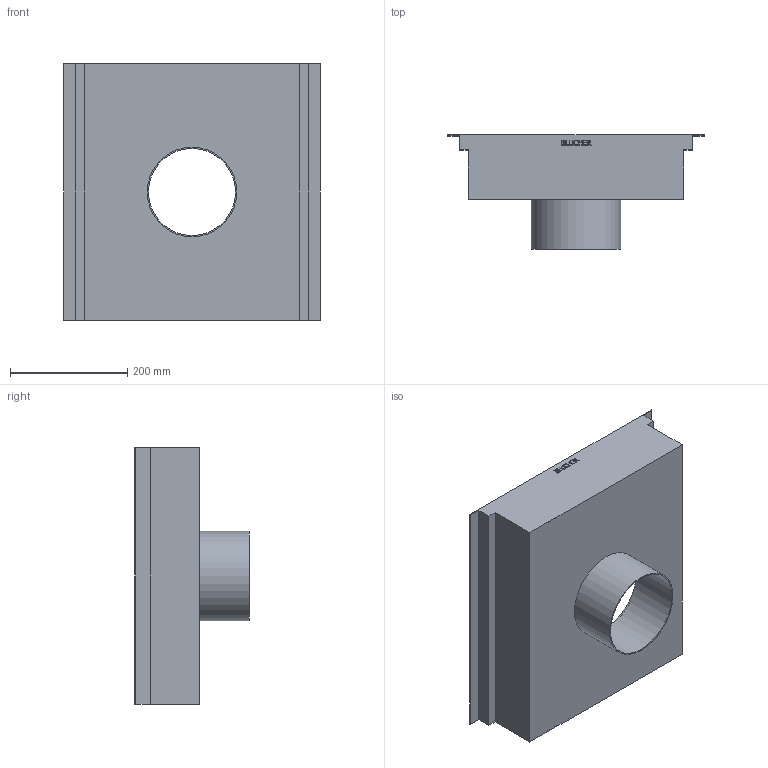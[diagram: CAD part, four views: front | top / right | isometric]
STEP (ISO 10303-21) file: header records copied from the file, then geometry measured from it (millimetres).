
FILE_DESCRIPTION((''),'2;1');
FILE_NAME('I:\WATTS\3D_CAD\3D_CAD_Models\Blucher_Drains\BKC_KitchenChannels\BKC-100\WebsiteFiles\3D\STEP\BKC-106-4.stp','2009-11-23T15:48:30',('menesek'),(''),'Autodesk Inventor 2010','Autodesk Inventor 2010','');
FILE_SCHEMA(('AUTOMOTIVE_DESIGN { 1 0 10303 214 1 1 1 1 }'));
Length unit declared in the file: inch
Products named in the file (1): BKC-106-4
Bounding box: 437 x 195 x 437 mm (x, y, z)
Volume: 776101.2 mm3; surface area: 780656.2 mm2
Topology: 1 solids, 1 shells, 142 faces, 384 edges, 256 vertices
Faces by surface type: plane 95, bspline 45, cylinder 2
Full cylindrical faces by diameter (mm): 148.4 x1, 152.4 x1
Entity records: 4799 total; most frequent: CARTESIAN_POINT 1501, ORIENTED_EDGE 764, DIRECTION 492, EDGE_CURVE 382, VECTOR 288, LINE 288, VERTEX_POINT 256, EDGE_LOOP 158
